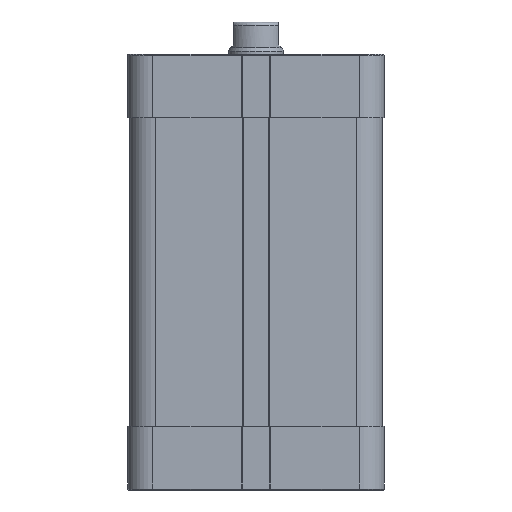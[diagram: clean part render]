
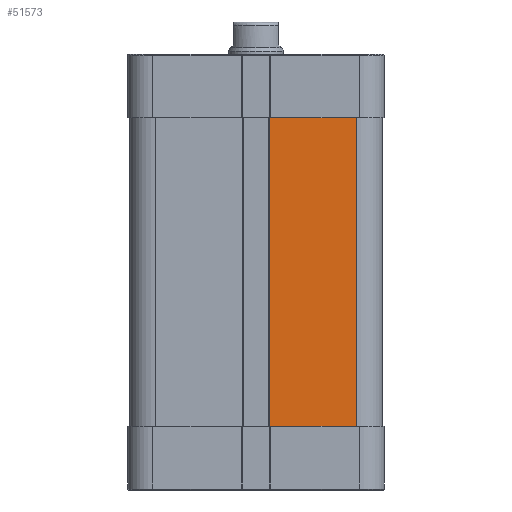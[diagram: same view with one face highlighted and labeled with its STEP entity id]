
A CAD part, front view. The second image highlights one B-rep face of the part: STEP entity #51573.
In plain terms, the highlighted planar face has unit normal (0, -1, 0).
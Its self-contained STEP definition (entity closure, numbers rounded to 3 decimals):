
#513 = EDGE_LOOP ( 'NONE', ( #36797, #44150, #20356, #52824 ) ) ;
#771 = LINE ( 'NONE', #45681, #42854 ) ;
#2786 = DIRECTION ( 'NONE',  ( 0., 0., 1. ) ) ;
#4663 = EDGE_CURVE ( 'NONE', #14606, #32304, #41631, .T. ) ;
#5144 = CARTESIAN_POINT ( 'NONE',  ( 2.925, -27.5, -67.2 ) ) ;
#6149 = EDGE_CURVE ( 'NONE', #12925, #33265, #43726, .T. ) ;
#6385 = AXIS2_PLACEMENT_3D ( 'NONE', #40997, #7453, #15755 ) ;
#7453 = DIRECTION ( 'NONE',  ( 0., -1., 0. ) ) ;
#7649 = DIRECTION ( 'NONE',  ( 0., 0., 1. ) ) ;
#12925 = VERTEX_POINT ( 'NONE', #20141 ) ;
#13831 = FACE_OUTER_BOUND ( 'NONE', #513, .T. ) ;
#14606 = VERTEX_POINT ( 'NONE', #5144 ) ;
#15755 = DIRECTION ( 'NONE',  ( 1., 0., 0. ) ) ;
#17544 = VECTOR ( 'NONE', #2786, 1000. ) ;
#20141 = CARTESIAN_POINT ( 'NONE',  ( 2.925, -27.5, 0. ) ) ;
#20356 = ORIENTED_EDGE ( 'NONE', *, *, #4663, .T. ) ;
#24235 = PLANE ( 'NONE',  #6385 ) ;
#24569 = DIRECTION ( 'NONE',  ( 1., 0., 0. ) ) ;
#24709 = CARTESIAN_POINT ( 'NONE',  ( 2.925, -27.5, 0. ) ) ;
#28620 = CARTESIAN_POINT ( 'NONE',  ( 2.925, -27.5, -67.2 ) ) ;
#28935 = DIRECTION ( 'NONE',  ( 1., 0., 0. ) ) ;
#29866 = CARTESIAN_POINT ( 'NONE',  ( 22., -27.5, -67.2 ) ) ;
#32304 = VERTEX_POINT ( 'NONE', #29866 ) ;
#33265 = VERTEX_POINT ( 'NONE', #36338 ) ;
#33897 = VECTOR ( 'NONE', #28935, 1000. ) ;
#35693 = VECTOR ( 'NONE', #24569, 1000. ) ;
#36268 = CARTESIAN_POINT ( 'NONE',  ( 22., -27.5, -67.2 ) ) ;
#36338 = CARTESIAN_POINT ( 'NONE',  ( 22., -27.5, 0. ) ) ;
#36797 = ORIENTED_EDGE ( 'NONE', *, *, #6149, .F. ) ;
#40997 = CARTESIAN_POINT ( 'NONE',  ( 2.925, -27.5, -67.2 ) ) ;
#41631 = LINE ( 'NONE', #28620, #35693 ) ;
#42854 = VECTOR ( 'NONE', #7649, 1000. ) ;
#43726 = LINE ( 'NONE', #24709, #33897 ) ;
#43874 = LINE ( 'NONE', #36268, #17544 ) ;
#44150 = ORIENTED_EDGE ( 'NONE', *, *, #51660, .F. ) ;
#45681 = CARTESIAN_POINT ( 'NONE',  ( 2.925, -27.5, -67.2 ) ) ;
#48534 = EDGE_CURVE ( 'NONE', #32304, #33265, #43874, .T. ) ;
#51573 = ADVANCED_FACE ( 'NONE', ( #13831 ), #24235, .T. ) ;
#51660 = EDGE_CURVE ( 'NONE', #14606, #12925, #771, .T. ) ;
#52824 = ORIENTED_EDGE ( 'NONE', *, *, #48534, .T. ) ;
